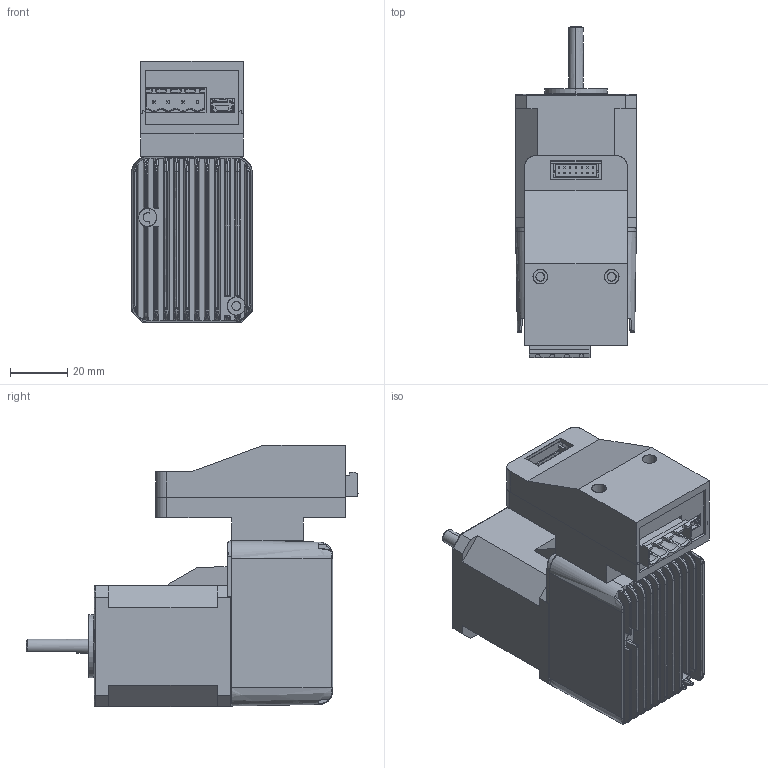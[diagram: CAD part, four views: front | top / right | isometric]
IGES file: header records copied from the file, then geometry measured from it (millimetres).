
Start section: SolidWorks IGES file using analytic representation for surfaces
Global section: file name: C:\Users\IEUser\Documents\Christine folder\Arcus\Project #23 DMX Drawings\DMX-UMD-17\DMX-UMD-17-3.IGS; native system: SolidWorks 2008; preprocessor: SolidWorks 2008; author: IEUser; date: 140307.154603; units: millimetre
Bounding box: 42.3 x 116.07 x 91.45 mm (x, y, z)
Surface area: 65745.4 mm2 (no closed solid volume)
Topology: 0 solids, 0 shells, 1734 faces, 14930 edges, 14876 vertices
Faces by surface type: bspline 1178, revolution 556
